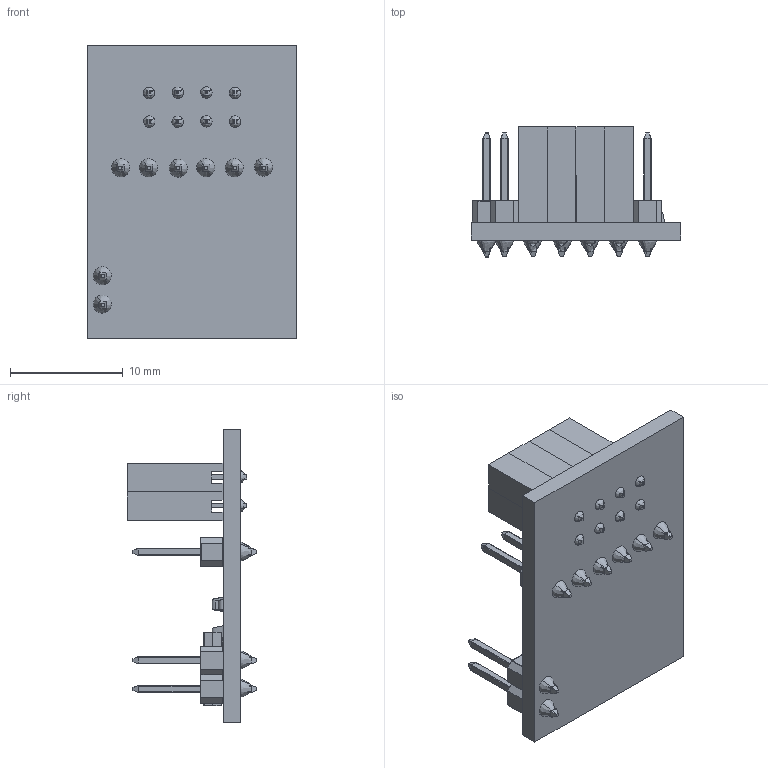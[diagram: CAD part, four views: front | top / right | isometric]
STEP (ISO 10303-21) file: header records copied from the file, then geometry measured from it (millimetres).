
FILE_DESCRIPTION (( 'STEP AP214' ), '1' );
FILE_NAME ('NRFL24L01_Power_Board_asm.STEP', '2016-06-06T18:16:01', ( '' ), ( '' ), 'SwSTEP 2.0', 'SolidWorks 2016', '' );
FILE_SCHEMA (( 'AUTOMOTIVE_DESIGN' ));
Length unit declared in the file: millimetre
Products named in the file (19): nRF24L01_power_board_PCB; Header_4; pin; User Library-LED 0603; Solder3_LED; User Library-RES_1609-0603_Predeterminado; NRFL24L01_Power_Board_asm; Solder3_Resistor; Solder3_SOT-223; Solder2; header; Solder; Solder3_SOT-223-2; Strait_Headers_2 pins; Solder3_Capacitor; Strait_Headers_6 pins; SOT-223; User Library-CAPC1608X09
Assembly tree (54 placements, depth 4):
  NRFL24L01_Power_Board_asm
    nRF24L01_power_board_PCB
    Header_4
      header  x8
        header
        pin
    SOT-223
    Strait_Headers_2 pins
    Strait_Headers_6 pins
    User Library-LED 0603
    User Library-CAPC1608X09  x4
    User Library-RES_1609-0603_Predeterminado
    Solder  x9
    Solder2  x8
    Solder3_Resistor  x2
    Solder3_LED  x2
    Solder3_Capacitor  x8
    Solder3_SOT-223  x3
    Solder3_SOT-223-2
Bounding box: 18.6 x 11.5 x 26 mm (x, y, z)
Volume: 1216.2 mm3; surface area: 3188.1 mm2
Topology: 72 solids, 77 shells, 2085 faces, 5111 edges, 3115 vertices
Faces by surface type: plane 1470, cylinder 414, bspline 157, sphere 44
Entity records: 58687 total; most frequent: CARTESIAN_POINT 12381, ORIENTED_EDGE 7488, DIRECTION 6742, EDGE_CURVE 3752, LINE 3064, VECTOR 3064, VERTEX_POINT 2282, AXIS2_PLACEMENT_3D 1839
